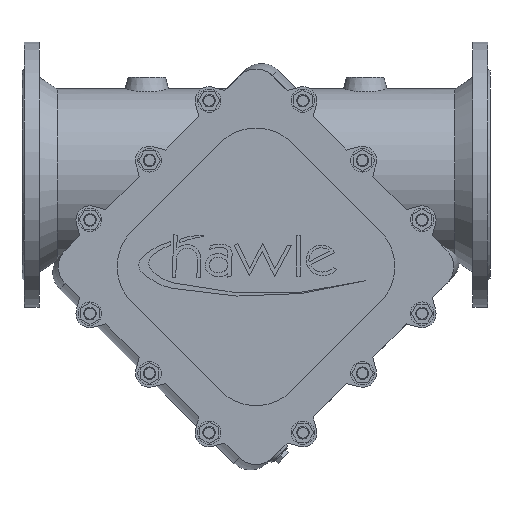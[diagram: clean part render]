
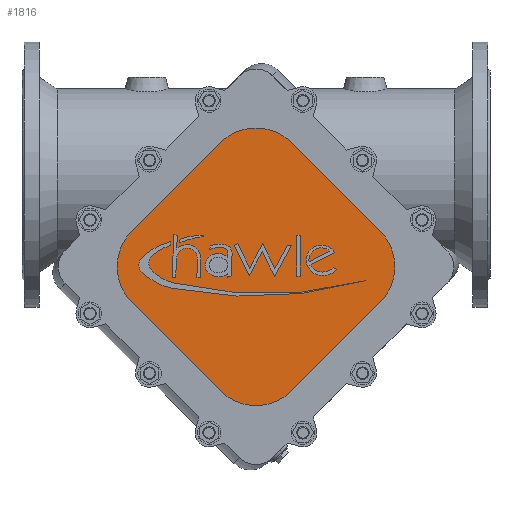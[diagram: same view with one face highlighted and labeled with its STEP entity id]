
A CAD part, front view. The second image highlights one B-rep face of the part: STEP entity #1816.
In plain terms, the highlighted planar face has unit normal (0, -1, 0).
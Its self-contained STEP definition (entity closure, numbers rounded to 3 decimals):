
#1816=ADVANCED_FACE('',(#3624),#3625,.T.);
#3624=FACE_OUTER_BOUND('',#5973,.T.);
#3625=PLANE('',#5974);
#5973=EDGE_LOOP('',(#9004,#9005,#9006,#9007,#9008,#9009,#9010,#9011,#9012,#9013));
#5974=AXIS2_PLACEMENT_3D('',#9014,#9015,#9016);
#9004=ORIENTED_EDGE('',*,*,#13470,.F.);
#9005=ORIENTED_EDGE('',*,*,#13370,.F.);
#9006=ORIENTED_EDGE('',*,*,#13398,.F.);
#9007=ORIENTED_EDGE('',*,*,#13471,.F.);
#9008=ORIENTED_EDGE('',*,*,#12982,.F.);
#9009=ORIENTED_EDGE('',*,*,#13424,.F.);
#9010=ORIENTED_EDGE('',*,*,#13472,.F.);
#9011=ORIENTED_EDGE('',*,*,#13473,.F.);
#9012=ORIENTED_EDGE('',*,*,#13474,.F.);
#9013=ORIENTED_EDGE('',*,*,#13475,.F.);
#9014=CARTESIAN_POINT('',(-300.,-190.0,-118.));
#9015=DIRECTION('',(0.0,-1.0,0.0));
#9016=DIRECTION('',(1.0,0.0,0.0));
#12982=EDGE_CURVE('',#15384,#15385,#15386,.T.);
#13370=EDGE_CURVE('',#15992,#15995,#15996,.T.);
#13398=EDGE_CURVE('',#16031,#15992,#16033,.T.);
#13424=EDGE_CURVE('',#16067,#15384,#16068,.T.);
#13470=EDGE_CURVE('',#15995,#16138,#16139,.T.);
#13471=EDGE_CURVE('',#15385,#16031,#16140,.T.);
#13472=EDGE_CURVE('',#16141,#16067,#16142,.T.);
#13473=EDGE_CURVE('',#16143,#16141,#16144,.T.);
#13474=EDGE_CURVE('',#16145,#16143,#16146,.T.);
#13475=EDGE_CURVE('',#16138,#16145,#16147,.T.);
#15384=VERTEX_POINT('',#18831);
#15385=VERTEX_POINT('',#18832);
#15386=CIRCLE('',#18833,65.);
#15992=VERTEX_POINT('',#19891);
#15995=VERTEX_POINT('',#19895);
#15996=CIRCLE('',#19896,65.0);
#16031=VERTEX_POINT('',#19940);
#16033=CIRCLE('',#19943,65.0);
#16067=VERTEX_POINT('',#19990);
#16068=LINE('',#19991,#19992);
#16138=VERTEX_POINT('',#20090);
#16139=LINE('',#20091,#20092);
#16140=LINE('',#20093,#20094);
#16141=VERTEX_POINT('',#20095);
#16142=CIRCLE('',#20096,65.0);
#16143=VERTEX_POINT('',#20097);
#16144=CIRCLE('',#20098,65.0);
#16145=VERTEX_POINT('',#20099);
#16146=LINE('',#20100,#20101);
#16147=CIRCLE('',#20102,65.);
#18831=CARTESIAN_POINT('',(-254.038,-190.0,-276.962));
#18832=CARTESIAN_POINT('',(-345.962,-190.0,-276.962));
#18833=AXIS2_PLACEMENT_3D('',#22756,#22757,#22758);
#19891=CARTESIAN_POINT('',(-478.,-190.0,-118.0));
#19895=CARTESIAN_POINT('',(-458.962,-190.0,-72.038));
#19896=AXIS2_PLACEMENT_3D('',#23241,#23242,#23243);
#19940=CARTESIAN_POINT('',(-458.962,-190.0,-163.962));
#19943=AXIS2_PLACEMENT_3D('',#23278,#23279,#23280);
#19990=CARTESIAN_POINT('',(-141.038,-190.0,-163.962));
#19991=CARTESIAN_POINT('',(-254.038,-190.0,-276.962));
#19992=VECTOR('',#23303,1.0);
#20090=CARTESIAN_POINT('',(-345.962,-190.0,40.962));
#20091=CARTESIAN_POINT('',(-345.962,-190.0,40.962));
#20092=VECTOR('',#23347,1.0);
#20093=CARTESIAN_POINT('',(-458.962,-190.0,-163.962));
#20094=VECTOR('',#23348,1.0);
#20095=CARTESIAN_POINT('',(-122.,-190.0,-118.0));
#20096=AXIS2_PLACEMENT_3D('',#23349,#23350,#23351);
#20097=CARTESIAN_POINT('',(-141.038,-190.0,-72.038));
#20098=AXIS2_PLACEMENT_3D('',#23352,#23353,#23354);
#20099=CARTESIAN_POINT('',(-254.038,-190.0,40.962));
#20100=CARTESIAN_POINT('',(-141.038,-190.0,-72.038));
#20101=VECTOR('',#23355,1.0);
#20102=AXIS2_PLACEMENT_3D('',#23356,#23357,#23358);
#22756=CARTESIAN_POINT('',(-300.0,-190.0,-231.));
#22757=DIRECTION('',(-0.0,1.0,0.0));
#22758=DIRECTION('',(1.0,0.0,0.0));
#23241=CARTESIAN_POINT('',(-413.,-190.0,-118.0));
#23242=DIRECTION('',(-0.0,1.0,0.0));
#23243=DIRECTION('',(1.0,0.0,0.0));
#23278=CARTESIAN_POINT('',(-413.,-190.0,-118.0));
#23279=DIRECTION('',(-0.0,1.0,0.0));
#23280=DIRECTION('',(1.0,0.0,0.0));
#23303=DIRECTION('',(-0.707,0.0,-0.707));
#23347=DIRECTION('',(0.707,0.0,0.707));
#23348=DIRECTION('',(-0.707,0.0,0.707));
#23349=CARTESIAN_POINT('',(-187.,-190.0,-118.0));
#23350=DIRECTION('',(-0.0,1.0,0.0));
#23351=DIRECTION('',(1.0,0.0,0.0));
#23352=CARTESIAN_POINT('',(-187.,-190.0,-118.0));
#23353=DIRECTION('',(-0.0,1.0,0.0));
#23354=DIRECTION('',(1.0,0.0,0.0));
#23355=DIRECTION('',(0.707,0.0,-0.707));
#23356=CARTESIAN_POINT('',(-300.0,-190.0,-5.));
#23357=DIRECTION('',(-0.0,1.0,0.0));
#23358=DIRECTION('',(1.0,0.0,0.0));
